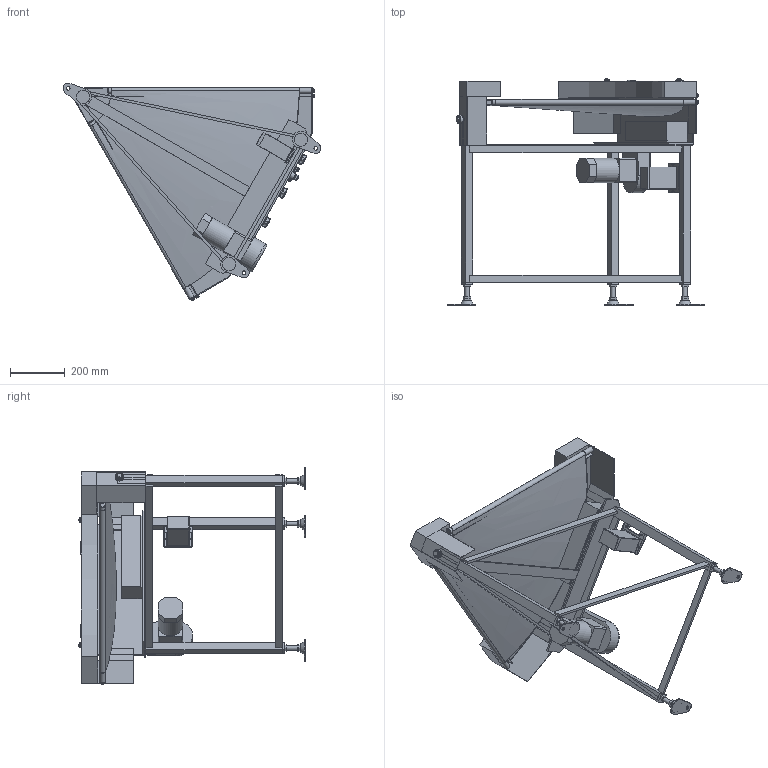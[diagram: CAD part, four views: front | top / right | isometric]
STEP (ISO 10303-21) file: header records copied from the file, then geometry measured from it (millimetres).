
FILE_DESCRIPTION (( 'STEP AP214' ), '1' );
FILE_NAME ('GBC60-UD600-L.STEP', '2022-12-05T23:43:26', ( '' ), ( '' ), 'SwSTEP 2.0', 'SolidWorks 2017', '' );
FILE_SCHEMA (( 'AUTOMOTIVE_DESIGN' ));
Length unit declared in the file: millimetre
Products named in the file (1): GBC60-UD600-L
Bounding box: 943.04 x 827.92 x 796.01 mm (x, y, z)
Volume: 18565613.5 mm3; surface area: 4229102.4 mm2
Topology: 56 solids, 56 shells, 907 faces, 2056 edges, 1319 vertices
Faces by surface type: plane 567, cylinder 185, cone 73, bspline 67, torus 8, sphere 7
Full cylindrical faces by diameter (mm): 4.2 x4, 4.5 x2, 5 x4, 6 x13, 6.4 x4, 7 x3, 8 x1, 9 x2, 10 x6, 12 x1, 12.2 x2, 12.5 x7, 13 x7, 15 x4, 16 x10, 18 x2, 18.4 x1, 20 x6, 21 x1, 22.2 x1, 25 x1, 30 x1, 89 x1
Entity records: 33309 total; most frequent: CARTESIAN_POINT 13413, ORIENTED_EDGE 3812, DIRECTION 3750, EDGE_CURVE 1906, AXIS2_PLACEMENT_3D 1297, VERTEX_POINT 1290, VECTOR 1156, LINE 1156
